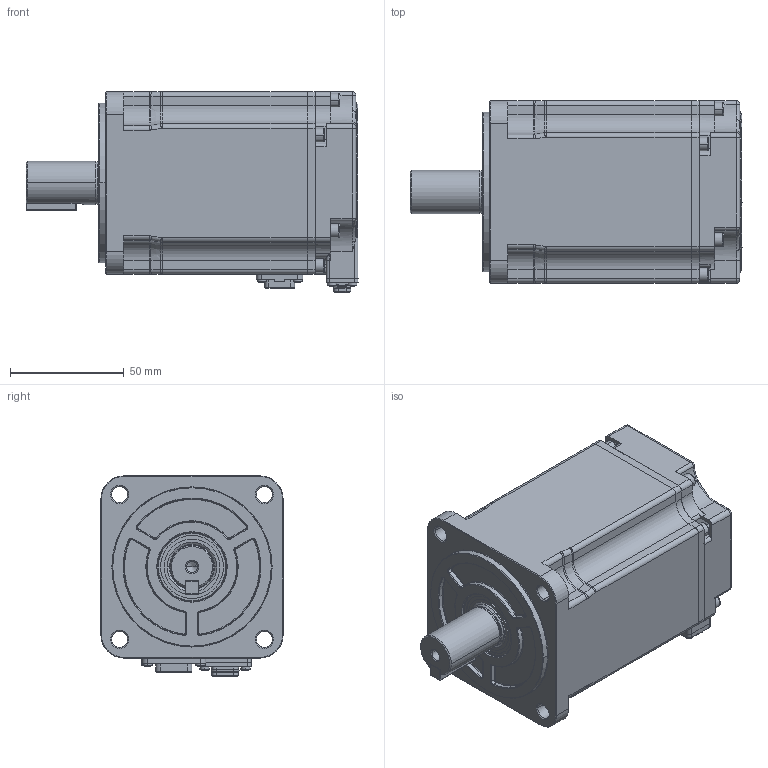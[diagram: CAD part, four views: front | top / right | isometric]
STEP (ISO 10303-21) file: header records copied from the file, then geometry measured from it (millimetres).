
FILE_DESCRIPTION((''),'2;1');
FILE_NAME('IMS20B-08M10C30C-2-XX-AUL_ASM','2024-09-09T09:06:40',('admin'),(''),'CREO PARAMETRIC BY PTC INC, 2019080','CREO PARAMETRIC BY PTC INC, 2019080','');
FILE_SCHEMA(('CONFIG_CONTROL_DESIGN'));
Products named in the file (24): 10C-0005_1_AF0; SC-MC6P-AP2G-04_05__4_AF0; 10C-0004_ASM_2_AF0_ASM; 10C-0007_2_AF0; 600400_4_AF0; 620100_4_AF0; 80--0001_3_AF0; 10C-0006_ASM_1_AF0_ASM; 80-20001_4; SC-MC7P-A60G-18_4; 8030-19-40001_6; A6X6X22000_5; ISO4762-M3X10_3_AF0; ISO4762-M3X10_3_AF1; ISO4762-M3X10_3_AF2; ISO4762-M3X10_3_AF3; ISO4762-M3X10_3; ISO7045-M2X4_1_AF0; ISO7045-M2X4_1_AF1; ISO7045-M2X4_1_AF2; ISO7045-M2X4_1_AF3; ISO7045-M2X5_1; 10C-0003_ASM_13_AF0_ASM; IMS20B-08M10C30C-2-XX-AUL_ASM
Assembly tree (29 placements, depth 4):
  IMS20B-08M10C30C-2-XX-AUL_ASM
    10C-0003_ASM_13_AF0_ASM
      10C-0004_ASM_2_AF0_ASM
        10C-0005_1_AF0
        SC-MC6P-AP2G-04_05__4_AF0
      10C-0006_ASM_1_AF0_ASM
        10C-0007_2_AF0
        600400_4_AF0
        620100_4_AF0
        80--0001_3_AF0
      80-20001_4
      SC-MC7P-A60G-18_4
      8030-19-40001_6
      A6X6X22000_5
      ISO4762-M3X10_3_AF0
      ISO4762-M3X10_3_AF1
      ISO4762-M3X10_3_AF2
      ISO4762-M3X10_3_AF3
      ISO4762-M3X10_3  x4
      ISO7045-M2X4_1_AF0
      ISO7045-M2X4_1_AF1
      ISO7045-M2X4_1_AF2
      ISO7045-M2X4_1_AF3
      ISO7045-M2X5_1  x4
Bounding box: 145.85 x 80 x 87.95 mm (x, y, z)
Volume: 205669.5 mm3; surface area: 119708.9 mm2
Topology: 26 solids, 58 shells, 2601 faces, 6759 edges, 4312 vertices
Faces by surface type: plane 1287, cylinder 817, torus 203, cone 154, sphere 56, extrusion 49, bspline 35
Entity records: 82465 total; most frequent: CARTESIAN_POINT 20164, DIRECTION 13363, ORIENTED_EDGE 12630, EDGE_CURVE 6367, AXIS2_PLACEMENT_3D 4746, VERTEX_POINT 4096, VECTOR 3871, LINE 3822
